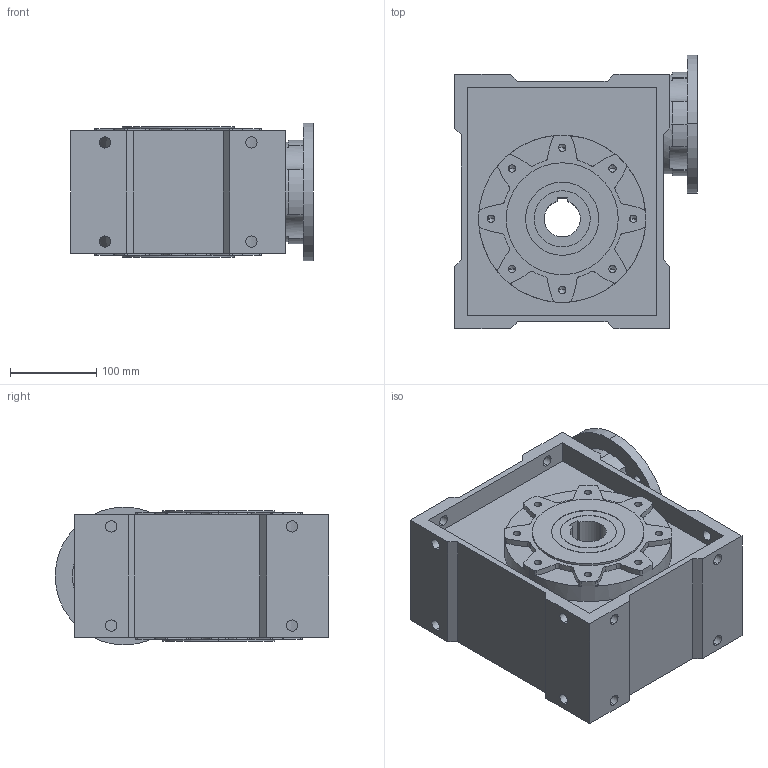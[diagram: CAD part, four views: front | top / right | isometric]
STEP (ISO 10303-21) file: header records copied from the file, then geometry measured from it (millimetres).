
FILE_DESCRIPTION (( 'STEP AP203' ), '1' );
FILE_NAME ('NMRV110-100B14.STEP', '2016-11-23T07:59:14', ( '微软中国' ), ( '微软中国' ), 'SwSTEP 2.0', 'SolidWorks 2012', '' );
FILE_SCHEMA (( 'CONFIG_CONTROL_DESIGN' ));
Length unit declared in the file: millimetre
Products named in the file (1): NMRV110-100B14
Bounding box: 282 x 317.5 x 160 mm (x, y, z)
Volume: 8538484.8 mm3; surface area: 469843.3 mm2
Topology: 1 solids, 1 shells, 343 faces, 943 edges, 601 vertices
Faces by surface type: cylinder 233, plane 76, cone 32, torus 2
Entity records: 11063 total; most frequent: DIRECTION 2114, CARTESIAN_POINT 1862, ORIENTED_EDGE 1822, EDGE_CURVE 911, AXIS2_PLACEMENT_3D 861, VERTEX_POINT 601, CIRCLE 517, EDGE_LOOP 412
